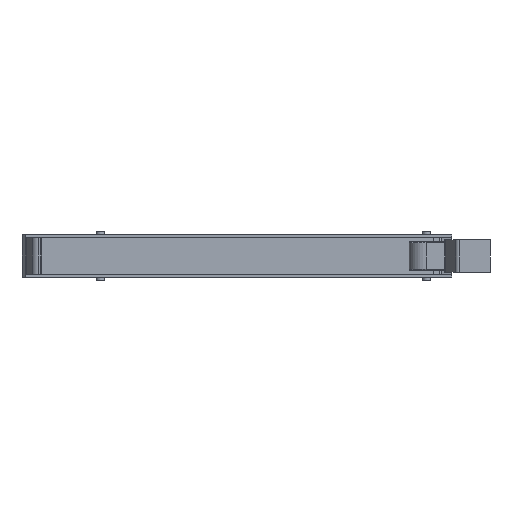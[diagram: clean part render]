
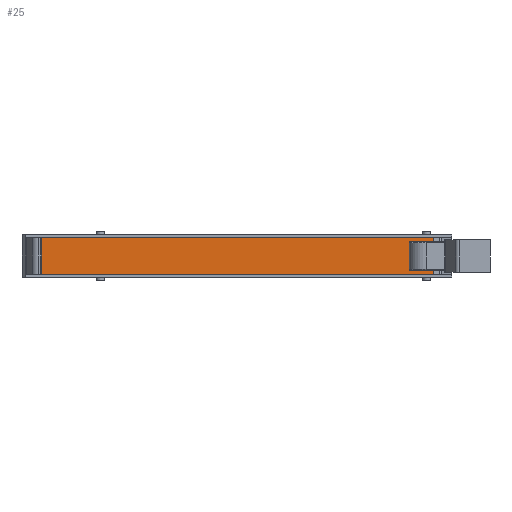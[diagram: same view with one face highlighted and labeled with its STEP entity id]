
A CAD part, front view. The second image highlights one B-rep face of the part: STEP entity #25.
In plain terms, the highlighted planar face has unit normal (0, -1, 0).
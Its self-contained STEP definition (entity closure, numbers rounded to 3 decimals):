
#25 = ADVANCED_FACE ( 'NONE', ( #2863 ), #802, .T. ) ;
#59 = ORIENTED_EDGE ( 'NONE', *, *, #2060, .T. ) ;
#215 = CARTESIAN_POINT ( 'NONE',  ( 117., -59.5, 23.3 ) ) ;
#325 = VERTEX_POINT ( 'NONE', #1256 ) ;
#444 = EDGE_CURVE ( 'NONE', #903, #1810, #2371, .T. ) ;
#772 = CARTESIAN_POINT ( 'NONE',  ( -113.5, -59.5, -249.682 ) ) ;
#775 = ORIENTED_EDGE ( 'NONE', *, *, #1820, .F. ) ;
#801 = VERTEX_POINT ( 'NONE', #215 ) ;
#802 = PLANE ( 'NONE',  #2716 ) ;
#840 = VECTOR ( 'NONE', #4124, 1000. ) ;
#851 = DIRECTION ( 'NONE',  ( 0., -1., 0. ) ) ;
#903 = VERTEX_POINT ( 'NONE', #4686 ) ;
#1096 = ORIENTED_EDGE ( 'NONE', *, *, #444, .F. ) ;
#1116 = LINE ( 'NONE', #1360, #1432 ) ;
#1256 = CARTESIAN_POINT ( 'NONE',  ( -113.5, -59.5, 23.3 ) ) ;
#1282 = DIRECTION ( 'NONE',  ( 0., 0., 1. ) ) ;
#1295 = CARTESIAN_POINT ( 'NONE',  ( -113.5, -59.5, -249.682 ) ) ;
#1338 = DIRECTION ( 'NONE',  ( 0., 0., 1. ) ) ;
#1360 = CARTESIAN_POINT ( 'NONE',  ( 117., -59.5, -249.682 ) ) ;
#1432 = VECTOR ( 'NONE', #1338, 1000. ) ;
#1484 = DIRECTION ( 'NONE',  ( 0., 0., -1. ) ) ;
#1675 = ORIENTED_EDGE ( 'NONE', *, *, #2078, .F. ) ;
#1788 = EDGE_LOOP ( 'NONE', ( #1096, #59, #775, #1675 ) ) ;
#1810 = VERTEX_POINT ( 'NONE', #1898 ) ;
#1820 = EDGE_CURVE ( 'NONE', #325, #801, #2782, .T. ) ;
#1870 = VECTOR ( 'NONE', #1893, 1000. ) ;
#1874 = CARTESIAN_POINT ( 'NONE',  ( -113.5, -59.5, 23.3 ) ) ;
#1893 = DIRECTION ( 'NONE',  ( 1., 0., 0. ) ) ;
#1898 = CARTESIAN_POINT ( 'NONE',  ( -113.5, -59.5, 1.7 ) ) ;
#2060 = EDGE_CURVE ( 'NONE', #903, #801, #1116, .T. ) ;
#2078 = EDGE_CURVE ( 'NONE', #1810, #325, #2507, .T. ) ;
#2371 = LINE ( 'NONE', #4401, #840 ) ;
#2507 = LINE ( 'NONE', #1295, #3784 ) ;
#2716 = AXIS2_PLACEMENT_3D ( 'NONE', #772, #851, #1484 ) ;
#2782 = LINE ( 'NONE', #1874, #1870 ) ;
#2863 = FACE_OUTER_BOUND ( 'NONE', #1788, .T. ) ;
#3784 = VECTOR ( 'NONE', #1282, 1000. ) ;
#4124 = DIRECTION ( 'NONE',  ( -1., 0., 0. ) ) ;
#4401 = CARTESIAN_POINT ( 'NONE',  ( -113.5, -59.5, 1.7 ) ) ;
#4686 = CARTESIAN_POINT ( 'NONE',  ( 117., -59.5, 1.7 ) ) ;
